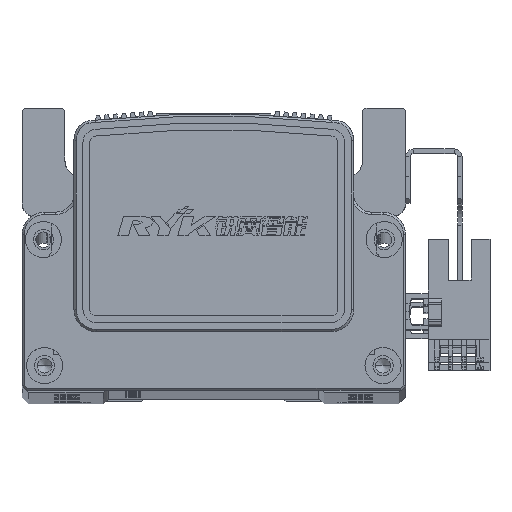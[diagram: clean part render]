
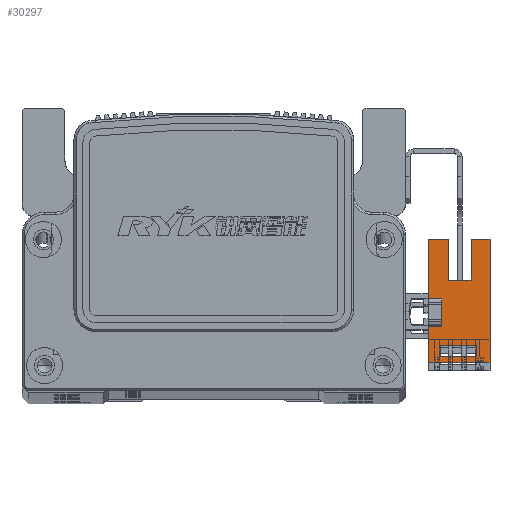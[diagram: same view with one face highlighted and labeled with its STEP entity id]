
A CAD part, top view. The second image highlights one B-rep face of the part: STEP entity #30297.
In plain terms, the highlighted planar face has unit normal (0, 0, 1) as drawn and (1, 0, 0) by its records, which use the part's own axes.
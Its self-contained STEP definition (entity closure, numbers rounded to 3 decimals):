
#783 = ORIENTED_EDGE ( 'NONE', *, *, #8202, .T. ) ;
#785 = ORIENTED_EDGE ( 'NONE', *, *, #8244, .F. ) ;
#791 = ORIENTED_EDGE ( 'NONE', *, *, #8188, .F. ) ;
#817 = ORIENTED_EDGE ( 'NONE', *, *, #8197, .F. ) ;
#831 = ORIENTED_EDGE ( 'NONE', *, *, #8240, .F. ) ;
#844 = ORIENTED_EDGE ( 'NONE', *, *, #8210, .T. ) ;
#849 = ORIENTED_EDGE ( 'NONE', *, *, #8153, .F. ) ;
#867 = ORIENTED_EDGE ( 'NONE', *, *, #8136, .F. ) ;
#878 = ORIENTED_EDGE ( 'NONE', *, *, #8191, .F. ) ;
#882 = ORIENTED_EDGE ( 'NONE', *, *, #8223, .F. ) ;
#901 = ORIENTED_EDGE ( 'NONE', *, *, #8125, .T. ) ;
#903 = ORIENTED_EDGE ( 'NONE', *, *, #8214, .T. ) ;
#906 = ORIENTED_EDGE ( 'NONE', *, *, #8194, .F. ) ;
#914 = ORIENTED_EDGE ( 'NONE', *, *, #8216, .T. ) ;
#917 = ORIENTED_EDGE ( 'NONE', *, *, #8126, .F. ) ;
#937 = ORIENTED_EDGE ( 'NONE', *, *, #8189, .T. ) ;
#8125 = EDGE_CURVE ( 'NONE', #66419, #66260, #68501, .T. ) ;
#8126 = EDGE_CURVE ( 'NONE', #66446, #66551, #68538, .T. ) ;
#8136 = EDGE_CURVE ( 'NONE', #66551, #66557, #68519, .T. ) ;
#8153 = EDGE_CURVE ( 'NONE', #66561, #66549, #68582, .T. ) ;
#8188 = EDGE_CURVE ( 'NONE', #66524, #66649, #68633, .T. ) ;
#8189 = EDGE_CURVE ( 'NONE', #66588, #66557, #68650, .T. ) ;
#8191 = EDGE_CURVE ( 'NONE', #66649, #66470, #68616, .T. ) ;
#8194 = EDGE_CURVE ( 'NONE', #66487, #66446, #68643, .T. ) ;
#8197 = EDGE_CURVE ( 'NONE', #66549, #66487, #68634, .T. ) ;
#8202 = EDGE_CURVE ( 'NONE', #66507, #66419, #68662, .T. ) ;
#8210 = EDGE_CURVE ( 'NONE', #66260, #66521, #68624, .T. ) ;
#8214 = EDGE_CURVE ( 'NONE', #66521, #66685, #68653, .T. ) ;
#8216 = EDGE_CURVE ( 'NONE', #66685, #66588, #68615, .T. ) ;
#8223 = EDGE_CURVE ( 'NONE', #66470, #66633, #68619, .T. ) ;
#8240 = EDGE_CURVE ( 'NONE', #66507, #66561, #68738, .T. ) ;
#8244 = EDGE_CURVE ( 'NONE', #66633, #66524, #68734, .T. ) ;
#20719 = FACE_BOUND ( 'NONE', #34460, .T. ) ;
#20726 = FACE_OUTER_BOUND ( 'NONE', #34423, .T. ) ;
#23951 = PLANE ( 'NONE',  #39274 ) ;
#23968 = CARTESIAN_POINT ( 'NONE',  ( 3.2, 16.1, -10.7 ) ) ;
#23971 = DIRECTION ( 'NONE',  ( 0., 1., 0. ) ) ;
#23976 = DIRECTION ( 'NONE',  ( 1., 0., 0. ) ) ;
#30297 = ADVANCED_FACE ( 'NONE', ( #20726, #20719 ), #23951, .T. ) ;
#34423 = EDGE_LOOP ( 'NONE', ( #844, #903, #914, #937, #867, #917, #906, #817, #849, #831, #783, #901 ) ) ;
#34460 = EDGE_LOOP ( 'NONE', ( #785, #882, #878, #791 ) ) ;
#39274 = AXIS2_PLACEMENT_3D ( 'NONE', #23968, #23976, #23971 ) ;
#57878 = CARTESIAN_POINT ( 'NONE',  ( 3.2, 16.1, -6.5 ) ) ;
#57913 = CARTESIAN_POINT ( 'NONE',  ( 3.2, 16.1, -10.7 ) ) ;
#57971 = CARTESIAN_POINT ( 'NONE',  ( 3.2, -11.1, -10.7 ) ) ;
#57993 = CARTESIAN_POINT ( 'NONE',  ( 3.2, 7.1, -6.5 ) ) ;
#57997 = CARTESIAN_POINT ( 'NONE',  ( 3.2, -3.1, 3. ) ) ;
#58002 = CARTESIAN_POINT ( 'NONE',  ( 3.2, -3.1, 0. ) ) ;
#58012 = CARTESIAN_POINT ( 'NONE',  ( 3.2, 3.1, 3. ) ) ;
#58016 = CARTESIAN_POINT ( 'NONE',  ( 3.2, -7.33, -7.7 ) ) ;
#58023 = CARTESIAN_POINT ( 'NONE',  ( 3.2, 3.1, 0. ) ) ;
#58025 = CARTESIAN_POINT ( 'NONE',  ( 3.2, -9.83, 0.3 ) ) ;
#58042 = CARTESIAN_POINT ( 'NONE',  ( 3.2, -7.33, 0.3 ) ) ;
#58056 = CARTESIAN_POINT ( 'NONE',  ( 3.2, -9.83, -7.7 ) ) ;
#58064 = CARTESIAN_POINT ( 'NONE',  ( 3.2, 16.1, -1.5 ) ) ;
#58070 = CARTESIAN_POINT ( 'NONE',  ( 3.2, 16.1, 3. ) ) ;
#58091 = CARTESIAN_POINT ( 'NONE',  ( 3.2, -11.1, 3. ) ) ;
#58149 = CARTESIAN_POINT ( 'NONE',  ( 3.2, 7.1, -1.5 ) ) ;
#66260 = VERTEX_POINT ( 'NONE', #57878 ) ;
#66419 = VERTEX_POINT ( 'NONE', #57913 ) ;
#66446 = VERTEX_POINT ( 'NONE', #58023 ) ;
#66470 = VERTEX_POINT ( 'NONE', #58016 ) ;
#66487 = VERTEX_POINT ( 'NONE', #58002 ) ;
#66507 = VERTEX_POINT ( 'NONE', #57971 ) ;
#66521 = VERTEX_POINT ( 'NONE', #57993 ) ;
#66524 = VERTEX_POINT ( 'NONE', #58025 ) ;
#66549 = VERTEX_POINT ( 'NONE', #57997 ) ;
#66551 = VERTEX_POINT ( 'NONE', #58012 ) ;
#66557 = VERTEX_POINT ( 'NONE', #58070 ) ;
#66561 = VERTEX_POINT ( 'NONE', #58091 ) ;
#66588 = VERTEX_POINT ( 'NONE', #58064 ) ;
#66633 = VERTEX_POINT ( 'NONE', #58042 ) ;
#66649 = VERTEX_POINT ( 'NONE', #58056 ) ;
#66685 = VERTEX_POINT ( 'NONE', #58149 ) ;
#68495 = VECTOR ( 'NONE', #69600, 1000. ) ;
#68501 = LINE ( 'NONE', #69533, #68503 ) ;
#68503 = VECTOR ( 'NONE', #69537, 1000. ) ;
#68519 = LINE ( 'NONE', #69605, #68495 ) ;
#68538 = LINE ( 'NONE', #69542, #68539 ) ;
#68539 = VECTOR ( 'NONE', #69544, 1000. ) ;
#68558 = VECTOR ( 'NONE', #69625, 1000. ) ;
#68582 = LINE ( 'NONE', #69616, #68558 ) ;
#68615 = LINE ( 'NONE', #69758, #68625 ) ;
#68616 = LINE ( 'NONE', #69706, #68656 ) ;
#68619 = LINE ( 'NONE', #69737, #68626 ) ;
#68621 = VECTOR ( 'NONE', #69716, 1000. ) ;
#68624 = LINE ( 'NONE', #69740, #68676 ) ;
#68625 = VECTOR ( 'NONE', #69742, 1000. ) ;
#68626 = VECTOR ( 'NONE', #69748, 1000. ) ;
#68633 = LINE ( 'NONE', #69724, #68621 ) ;
#68634 = LINE ( 'NONE', #69722, #68651 ) ;
#68638 = VECTOR ( 'NONE', #69755, 1000. ) ;
#68641 = VECTOR ( 'NONE', #69700, 1000. ) ;
#68643 = LINE ( 'NONE', #69707, #68641 ) ;
#68648 = VECTOR ( 'NONE', #69713, 1000. ) ;
#68650 = LINE ( 'NONE', #69704, #68658 ) ;
#68651 = VECTOR ( 'NONE', #69728, 1000. ) ;
#68653 = LINE ( 'NONE', #69749, #68638 ) ;
#68656 = VECTOR ( 'NONE', #69717, 1000. ) ;
#68658 = VECTOR ( 'NONE', #69725, 1000. ) ;
#68662 = LINE ( 'NONE', #69711, #68648 ) ;
#68676 = VECTOR ( 'NONE', #69735, 1000. ) ;
#68722 = VECTOR ( 'NONE', #69792, 1000. ) ;
#68733 = VECTOR ( 'NONE', #69754, 1000. ) ;
#68734 = LINE ( 'NONE', #69767, #68722 ) ;
#68738 = LINE ( 'NONE', #69750, #68733 ) ;
#69533 = CARTESIAN_POINT ( 'NONE',  ( 3.2, 16.1, -10.7 ) ) ;
#69537 = DIRECTION ( 'NONE',  ( 0., 0., 1. ) ) ;
#69542 = CARTESIAN_POINT ( 'NONE',  ( 3.2, 3.1, 3. ) ) ;
#69544 = DIRECTION ( 'NONE',  ( 0., 0., 1. ) ) ;
#69600 = DIRECTION ( 'NONE',  ( 0., 1., 0. ) ) ;
#69605 = CARTESIAN_POINT ( 'NONE',  ( 3.2, 16.1, 3. ) ) ;
#69616 = CARTESIAN_POINT ( 'NONE',  ( 3.2, 16.1, 3. ) ) ;
#69625 = DIRECTION ( 'NONE',  ( 0., 1., 0. ) ) ;
#69700 = DIRECTION ( 'NONE',  ( 0., 1., 0. ) ) ;
#69704 = CARTESIAN_POINT ( 'NONE',  ( 3.2, 16.1, -10.7 ) ) ;
#69706 = CARTESIAN_POINT ( 'NONE',  ( 3.2, 16.1, -7.7 ) ) ;
#69707 = CARTESIAN_POINT ( 'NONE',  ( 3.2, 0., 0. ) ) ;
#69711 = CARTESIAN_POINT ( 'NONE',  ( 3.2, 16.1, -10.7 ) ) ;
#69713 = DIRECTION ( 'NONE',  ( 0., 1., 0. ) ) ;
#69716 = DIRECTION ( 'NONE',  ( 0., 0., -1. ) ) ;
#69717 = DIRECTION ( 'NONE',  ( 0., 1., 0. ) ) ;
#69722 = CARTESIAN_POINT ( 'NONE',  ( 3.2, -3.1, 3. ) ) ;
#69724 = CARTESIAN_POINT ( 'NONE',  ( 3.2, -9.83, -10.7 ) ) ;
#69725 = DIRECTION ( 'NONE',  ( 0., 0., 1. ) ) ;
#69728 = DIRECTION ( 'NONE',  ( 0., 0., -1. ) ) ;
#69735 = DIRECTION ( 'NONE',  ( 0., -1., 0. ) ) ;
#69737 = CARTESIAN_POINT ( 'NONE',  ( 3.2, -7.33, -10.7 ) ) ;
#69740 = CARTESIAN_POINT ( 'NONE',  ( 3.2, 25.1, -6.5 ) ) ;
#69742 = DIRECTION ( 'NONE',  ( 0., 1., 0. ) ) ;
#69748 = DIRECTION ( 'NONE',  ( 0., 0., 1. ) ) ;
#69749 = CARTESIAN_POINT ( 'NONE',  ( 3.2, 7.1, -6.5 ) ) ;
#69750 = CARTESIAN_POINT ( 'NONE',  ( 3.2, -11.1, 3. ) ) ;
#69754 = DIRECTION ( 'NONE',  ( 0., 0., 1. ) ) ;
#69755 = DIRECTION ( 'NONE',  ( 0., 0., 1. ) ) ;
#69758 = CARTESIAN_POINT ( 'NONE',  ( 3.2, 25.1, -1.5 ) ) ;
#69767 = CARTESIAN_POINT ( 'NONE',  ( 3.2, 16.1, 0.3 ) ) ;
#69792 = DIRECTION ( 'NONE',  ( 0., -1., 0. ) ) ;
